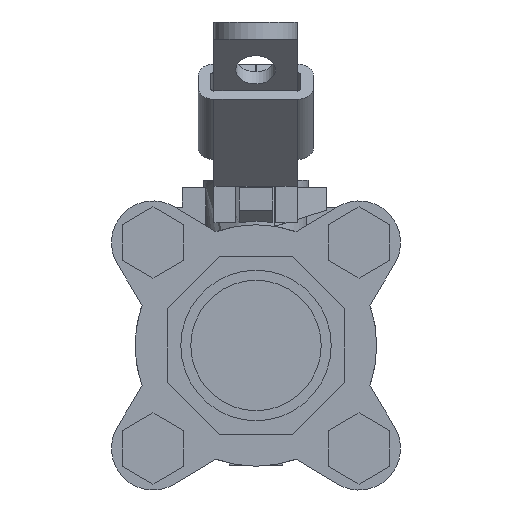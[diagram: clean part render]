
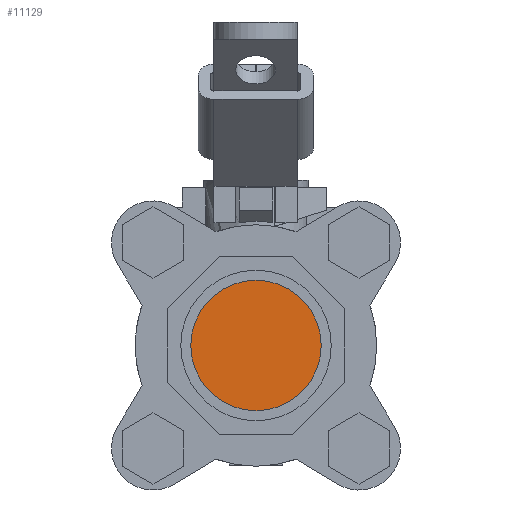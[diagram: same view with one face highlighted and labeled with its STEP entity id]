
A CAD part, left-side view. The second image highlights one B-rep face of the part: STEP entity #11129.
In plain terms, the highlighted planar face has unit normal (-1, 0, 0).
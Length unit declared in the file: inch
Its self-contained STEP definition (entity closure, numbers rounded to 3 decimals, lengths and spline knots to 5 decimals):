
#11109=CARTESIAN_POINT('',(1.055,1.07,0.7925));
#11110=VERTEX_POINT('',#11109);
#11111=CARTESIAN_POINT('',(1.055,0.0,0.7925));
#11112=DIRECTION('',(1.0,0.0,0.0));
#11113=DIRECTION('',(0.0,1.0,0.0));
#11114=AXIS2_PLACEMENT_3D('',#11111,#11112,#11113);
#11115=CIRCLE('',#11114,1.07);
#11116=EDGE_CURVE('',#11110,#11110,#11115,.T.);
#11121=CARTESIAN_POINT('',(1.055,0.0,0.7925));
#11122=DIRECTION('',(1.0,0.0,0.0));
#11123=DIRECTION('',(0.0,0.0,-1.0));
#11124=AXIS2_PLACEMENT_3D('',#11121,#11122,#11123);
#11125=PLANE('',#11124);
#11126=ORIENTED_EDGE('',*,*,#11116,.F.);
#11127=EDGE_LOOP('',(#11126));
#11128=FACE_OUTER_BOUND('',#11127,.T.);
#11129=ADVANCED_FACE('',(#11128),#11125,.F.);
